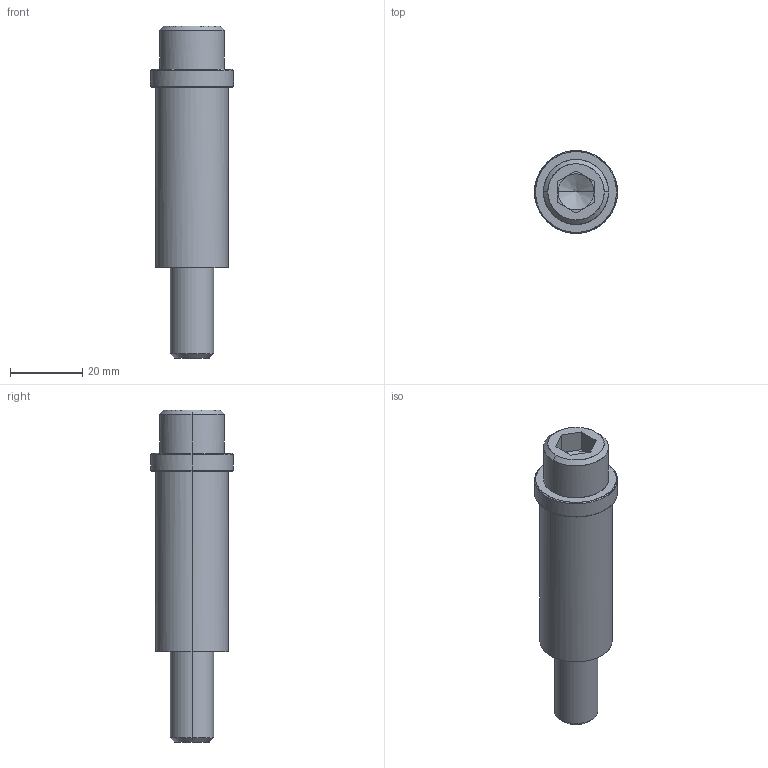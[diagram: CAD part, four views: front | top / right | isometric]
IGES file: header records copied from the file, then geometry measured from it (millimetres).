
Global section: file name: E:\UnigraphicsGraphicData\MISUMI_PRESS-PARTS\IGES\3d_sbth20-50-80_05162_r00.igs; native system: NX V5.0; preprocessor: UGS NX IGES V5.0; author: MISUMI; date: 20110105.162501; units: millimetre
Bounding box: 23 x 22.95 x 92 mm (x, y, z)
Surface area: 10873.6 mm2 (no closed solid volume)
Topology: 0 solids, 0 shells, 45 faces, 258 edges, 256 vertices
Faces by surface type: bspline 45
